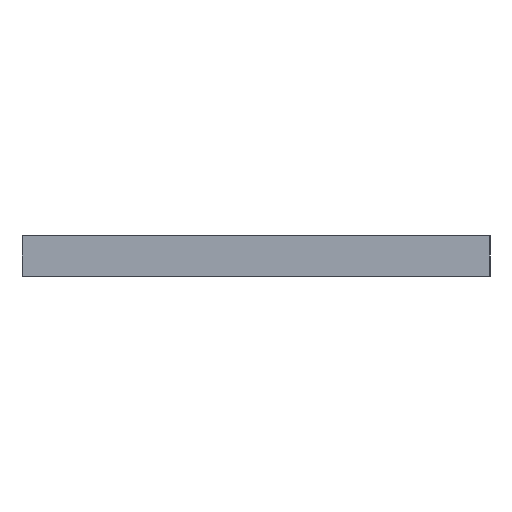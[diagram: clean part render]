
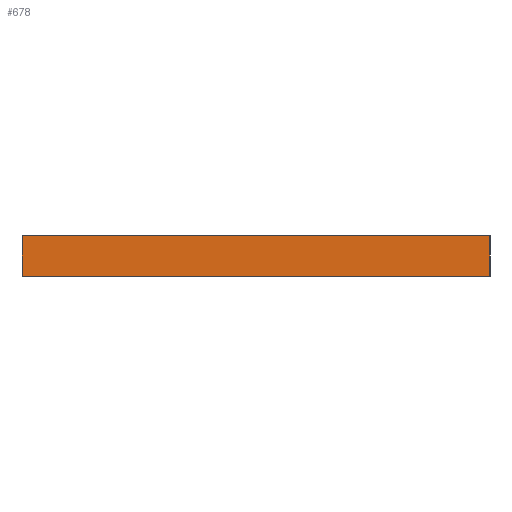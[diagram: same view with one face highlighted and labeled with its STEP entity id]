
A CAD part, left-side view. The second image highlights one B-rep face of the part: STEP entity #678.
In plain terms, the highlighted planar face has unit normal (-1, 0, 0).
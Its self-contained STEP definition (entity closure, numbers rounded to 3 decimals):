
#10 = CARTESIAN_POINT ( 'NONE',  ( 0., 0., 3. ) ) ;
#73 = ORIENTED_EDGE ( 'NONE', *, *, #878, .T. ) ;
#104 = EDGE_CURVE ( 'NONE', #854, #687, #1036, .T. ) ;
#118 = FACE_OUTER_BOUND ( 'NONE', #1347, .T. ) ;
#163 = CARTESIAN_POINT ( 'NONE',  ( 0., 35., 3. ) ) ;
#198 = CARTESIAN_POINT ( 'NONE',  ( 0., 0., 3. ) ) ;
#257 = CARTESIAN_POINT ( 'NONE',  ( 0., 35., 0. ) ) ;
#479 = DIRECTION ( 'NONE',  ( 0., -1., 0. ) ) ;
#548 = CARTESIAN_POINT ( 'NONE',  ( 0., 35., 3. ) ) ;
#616 = LINE ( 'NONE', #892, #1414 ) ;
#635 = DIRECTION ( 'NONE',  ( 0., 0., -1. ) ) ;
#640 = DIRECTION ( 'NONE',  ( 1., 0., 0. ) ) ;
#678 = ADVANCED_FACE ( 'NONE', ( #118 ), #1118, .F. ) ;
#687 = VERTEX_POINT ( 'NONE', #870 ) ;
#803 = CARTESIAN_POINT ( 'NONE',  ( 0., 0., 3. ) ) ;
#854 = VERTEX_POINT ( 'NONE', #198 ) ;
#861 = AXIS2_PLACEMENT_3D ( 'NONE', #10, #640, #875 ) ;
#870 = CARTESIAN_POINT ( 'NONE',  ( 0., 0., 0. ) ) ;
#875 = DIRECTION ( 'NONE',  ( 0., 0., -1. ) ) ;
#878 = EDGE_CURVE ( 'NONE', #1138, #687, #1201, .T. ) ;
#892 = CARTESIAN_POINT ( 'NONE',  ( 0., 0., 3. ) ) ;
#947 = EDGE_CURVE ( 'NONE', #1215, #1138, #1482, .T. ) ;
#1013 = ORIENTED_EDGE ( 'NONE', *, *, #1516, .F. ) ;
#1028 = ORIENTED_EDGE ( 'NONE', *, *, #104, .F. ) ;
#1036 = LINE ( 'NONE', #803, #1457 ) ;
#1104 = ORIENTED_EDGE ( 'NONE', *, *, #947, .T. ) ;
#1118 = PLANE ( 'NONE',  #861 ) ;
#1138 = VERTEX_POINT ( 'NONE', #257 ) ;
#1201 = LINE ( 'NONE', #1332, #1207 ) ;
#1207 = VECTOR ( 'NONE', #479, 1000. ) ;
#1215 = VERTEX_POINT ( 'NONE', #548 ) ;
#1261 = VECTOR ( 'NONE', #635, 1000. ) ;
#1285 = DIRECTION ( 'NONE',  ( 0., 0., -1. ) ) ;
#1332 = CARTESIAN_POINT ( 'NONE',  ( 0., 0., 0. ) ) ;
#1347 = EDGE_LOOP ( 'NONE', ( #73, #1028, #1013, #1104 ) ) ;
#1414 = VECTOR ( 'NONE', #1472, 1000. ) ;
#1457 = VECTOR ( 'NONE', #1285, 1000. ) ;
#1472 = DIRECTION ( 'NONE',  ( 0., -1., 0. ) ) ;
#1482 = LINE ( 'NONE', #163, #1261 ) ;
#1516 = EDGE_CURVE ( 'NONE', #1215, #854, #616, .T. ) ;
